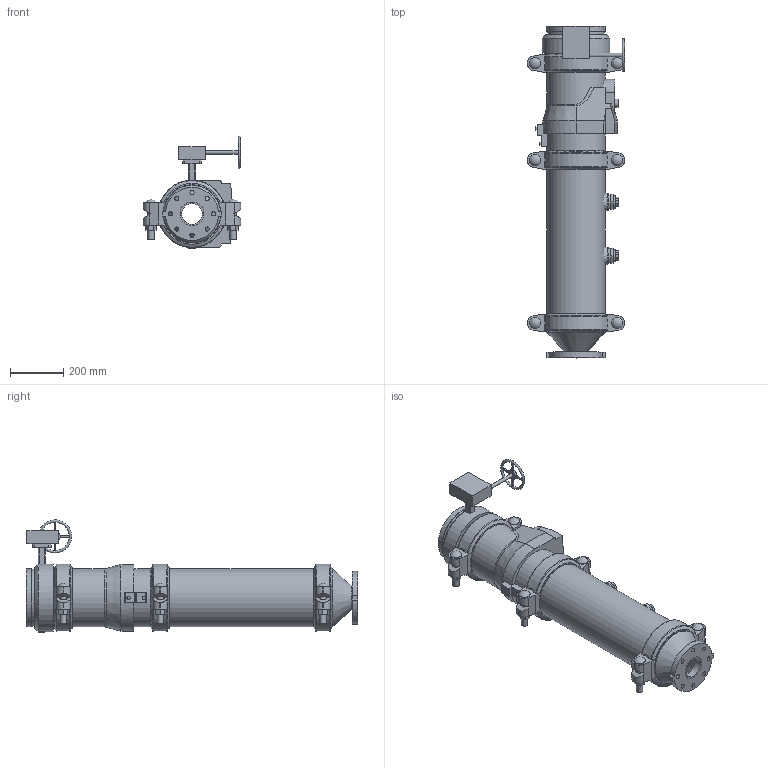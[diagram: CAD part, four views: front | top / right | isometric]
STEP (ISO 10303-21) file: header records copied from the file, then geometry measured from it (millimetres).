
FILE_DESCRIPTION(/* description */ ('VIC DVI PUMP DROP VERT S/390 (OGSxFLG)','CAx-IF Rec.Pracs.---Representation and Presentation of Product Manufacturing Information (PMI)---4.0---2014-10-13'),/* implementation_level */ '2;1');
FILE_NAME(/* name */ 'C:\Users\Vjadhav\AppData\Roaming\Autodesk\ApplicationPlugins\Back Up\Victaulic_IPS_Vertical DVI_PN10_Series 390 (OGSxFLG)\Victaulic_IPS_Vertical DVI_PN10_Series 390 (OGSxFLG)_08.0x03.0 (200x80).stp',/* time_stamp */ '2020-11-09T17:51:29+05:00',/* author */ ('Vjadhav'),/* organization */ ('Victaulic'),/* preprocessor_version */ 'ST-DEVELOPER v17.2',/* originating_system */ 'Autodesk Inventor 2019',/* authorisation */ '');
FILE_SCHEMA (('AP242_MANAGED_MODEL_BASED_3D_ENGINEERING_MIM_LF { 1 0 10303 442 1 1 4 }'));
Length unit declared in the file: inch
Products named in the file (8): 390-08.0x03.0; 741-03.0; 050-08.0x03.0; Pipe-08.0; 177N-08.0; 716-08.0; 923-04.0x0.75; 761-08.0
Assembly tree (10 placements, depth 2):
  390-08.0x03.0
    741-03.0
    050-08.0x03.0
    177N-08.0  x3
    Pipe-08.0
    716-08.0
    923-04.0x0.75  x2
    761-08.0
Bounding box: 367.28 x 1250.95 x 422.39 mm (x, y, z)
Volume: 15281466.6 mm3; surface area: 2563947.7 mm2
Topology: 10 solids, 11 shells, 583 faces, 1550 edges, 1038 vertices
Faces by surface type: plane 350, cylinder 187, cone 20, torus 18, sphere 6, bspline 2
Full cylindrical faces by diameter (mm): 8.636 x4, 12.446 x1, 12.7 x3, 16.002 x8, 22.86 x1, 23.774 x6, 26.67 x2, 30.48 x1, 39.125 x1, 42.85 x6, 45.974 x4, 55.118 x1, 55.626 x2, 77.927 x1, 84.938 x1, 88.9 x3, 202.717 x3, 206.375 x3, 206.985 x1, 214.401 x7, 219.075 x19, 254 x1
Entity records: 11825 total; most frequent: CARTESIAN_POINT 2386, DIRECTION 1922, ORIENTED_EDGE 1788, EDGE_CURVE 894, AXIS2_PLACEMENT_3D 727, VERTEX_POINT 606, LINE 468, VECTOR 468
